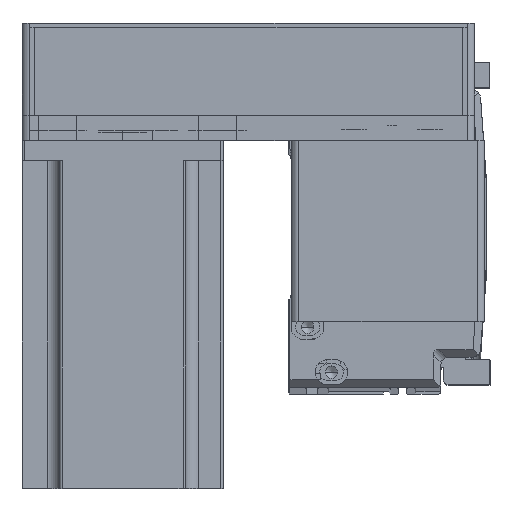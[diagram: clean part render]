
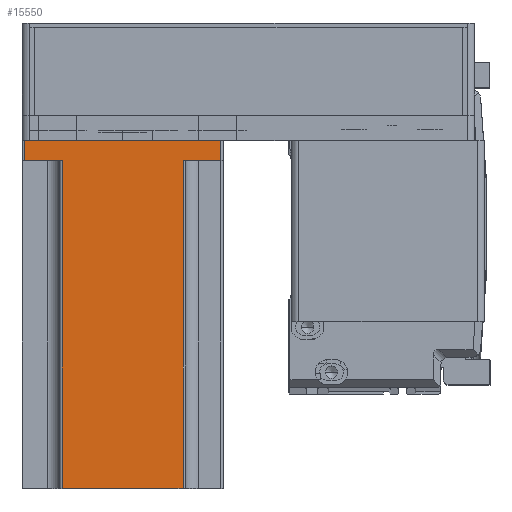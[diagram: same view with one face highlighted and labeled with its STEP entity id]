
A CAD part, top view. The second image highlights one B-rep face of the part: STEP entity #15550.
In plain terms, the highlighted planar face has unit normal (0, 0, 1) as drawn and (0, 1, 0) by its records, which use the part's own axes.
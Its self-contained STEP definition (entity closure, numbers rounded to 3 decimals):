
#312 = VECTOR ( 'NONE', #26931, 1000. ) ;
#1598 = LINE ( 'NONE', #39819, #11680 ) ;
#1902 = EDGE_CURVE ( 'NONE', #30294, #29818, #1598, .T. ) ;
#2287 = ORIENTED_EDGE ( 'NONE', *, *, #32795, .T. ) ;
#3019 = VECTOR ( 'NONE', #8836, 1000. ) ;
#4388 = LINE ( 'NONE', #38772, #3019 ) ;
#5292 = EDGE_CURVE ( 'NONE', #31558, #28522, #6593, .T. ) ;
#6593 = LINE ( 'NONE', #18326, #39373 ) ;
#6623 = VECTOR ( 'NONE', #19926, 1000. ) ;
#8283 = DIRECTION ( 'NONE',  ( -1., 0., 0. ) ) ;
#8836 = DIRECTION ( 'NONE',  ( 0., 0., 1. ) ) ;
#9891 = DIRECTION ( 'NONE',  ( 0., 0., -1. ) ) ;
#11680 = VECTOR ( 'NONE', #9891, 1000. ) ;
#11879 = VECTOR ( 'NONE', #32937, 1000. ) ;
#14091 = CARTESIAN_POINT ( 'NONE',  ( -25., 40., 8. ) ) ;
#15550 = ADVANCED_FACE ( 'NONE', ( #48831 ), #36772, .F. ) ;
#15626 = CARTESIAN_POINT ( 'NONE',  ( 25., 40., 8. ) ) ;
#17923 = CARTESIAN_POINT ( 'NONE',  ( -39., 40., 0. ) ) ;
#18326 = CARTESIAN_POINT ( 'NONE',  ( 40., 40., 0. ) ) ;
#19005 = VECTOR ( 'NONE', #26768, 1000. ) ;
#19310 = LINE ( 'NONE', #15626, #6623 ) ;
#19726 = ORIENTED_EDGE ( 'NONE', *, *, #50553, .T. ) ;
#19926 = DIRECTION ( 'NONE',  ( -1., 0., 0. ) ) ;
#20319 = LINE ( 'NONE', #14091, #19005 ) ;
#21936 = ORIENTED_EDGE ( 'NONE', *, *, #1902, .T. ) ;
#23114 = LINE ( 'NONE', #52757, #312 ) ;
#23151 = VERTEX_POINT ( 'NONE', #53785 ) ;
#23621 = ORIENTED_EDGE ( 'NONE', *, *, #28829, .F. ) ;
#24405 = CARTESIAN_POINT ( 'NONE',  ( 40., 40., 138.3 ) ) ;
#26768 = DIRECTION ( 'NONE',  ( 1., 0., 0. ) ) ;
#26816 = CARTESIAN_POINT ( 'NONE',  ( 24., 40., 138.3 ) ) ;
#26931 = DIRECTION ( 'NONE',  ( 0., 0., -1. ) ) ;
#28522 = VERTEX_POINT ( 'NONE', #17923 ) ;
#28658 = DIRECTION ( 'NONE',  ( 1., 0., 0. ) ) ;
#28829 = EDGE_CURVE ( 'NONE', #23151, #29818, #19310, .T. ) ;
#29818 = VERTEX_POINT ( 'NONE', #44795 ) ;
#30294 = VERTEX_POINT ( 'NONE', #26816 ) ;
#31558 = VERTEX_POINT ( 'NONE', #51592 ) ;
#32795 = EDGE_CURVE ( 'NONE', #45382, #48346, #20319, .T. ) ;
#32937 = DIRECTION ( 'NONE',  ( 0., 0., 1. ) ) ;
#33179 = EDGE_CURVE ( 'NONE', #30294, #53435, #34406, .T. ) ;
#34406 = LINE ( 'NONE', #51225, #37132 ) ;
#34598 = LINE ( 'NONE', #54797, #11879 ) ;
#35154 = ORIENTED_EDGE ( 'NONE', *, *, #33179, .F. ) ;
#35574 = CARTESIAN_POINT ( 'NONE',  ( -39., 40., 8. ) ) ;
#36772 = PLANE ( 'NONE',  #37790 ) ;
#37132 = VECTOR ( 'NONE', #8283, 1000. ) ;
#37790 = AXIS2_PLACEMENT_3D ( 'NONE', #24405, #54446, #28658 ) ;
#38772 = CARTESIAN_POINT ( 'NONE',  ( -24., 40., 138.3 ) ) ;
#38855 = EDGE_CURVE ( 'NONE', #48346, #53435, #4388, .T. ) ;
#38909 = EDGE_CURVE ( 'NONE', #23151, #31558, #23114, .T. ) ;
#39373 = VECTOR ( 'NONE', #44188, 1000. ) ;
#39819 = CARTESIAN_POINT ( 'NONE',  ( 24., 40., 138.3 ) ) ;
#42560 = ORIENTED_EDGE ( 'NONE', *, *, #38855, .T. ) ;
#44188 = DIRECTION ( 'NONE',  ( -1., 0., 0. ) ) ;
#44795 = CARTESIAN_POINT ( 'NONE',  ( 24., 40., 8. ) ) ;
#45382 = VERTEX_POINT ( 'NONE', #35574 ) ;
#48257 = EDGE_LOOP ( 'NONE', ( #2287, #42560, #35154, #21936, #23621, #48881, #53366, #19726 ) ) ;
#48346 = VERTEX_POINT ( 'NONE', #54076 ) ;
#48831 = FACE_OUTER_BOUND ( 'NONE', #48257, .T. ) ;
#48881 = ORIENTED_EDGE ( 'NONE', *, *, #38909, .T. ) ;
#50018 = CARTESIAN_POINT ( 'NONE',  ( -24., 40., 138.3 ) ) ;
#50553 = EDGE_CURVE ( 'NONE', #28522, #45382, #34598, .T. ) ;
#51225 = CARTESIAN_POINT ( 'NONE',  ( 40., 40., 138.3 ) ) ;
#51592 = CARTESIAN_POINT ( 'NONE',  ( 39., 40., 0. ) ) ;
#52757 = CARTESIAN_POINT ( 'NONE',  ( 39., 40., 138.3 ) ) ;
#53366 = ORIENTED_EDGE ( 'NONE', *, *, #5292, .T. ) ;
#53435 = VERTEX_POINT ( 'NONE', #50018 ) ;
#53785 = CARTESIAN_POINT ( 'NONE',  ( 39., 40., 8. ) ) ;
#54076 = CARTESIAN_POINT ( 'NONE',  ( -24., 40., 8. ) ) ;
#54446 = DIRECTION ( 'NONE',  ( 0., -1., 0. ) ) ;
#54797 = CARTESIAN_POINT ( 'NONE',  ( -39., 40., 138.3 ) ) ;
